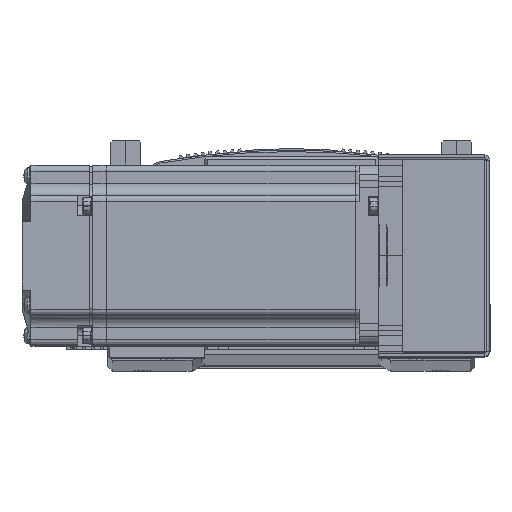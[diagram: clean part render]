
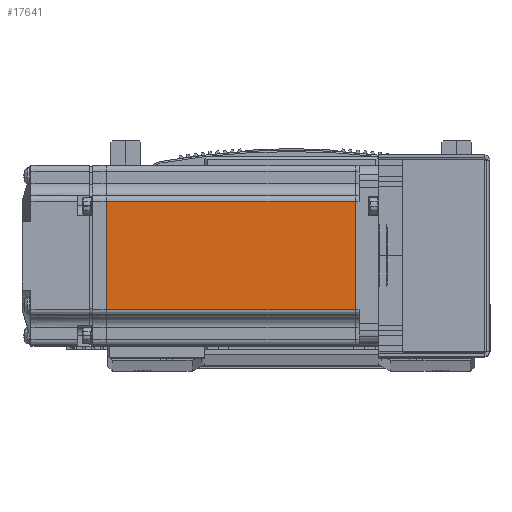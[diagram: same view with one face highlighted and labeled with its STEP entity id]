
A CAD part, top view. The second image highlights one B-rep face of the part: STEP entity #17641.
In plain terms, the highlighted planar face has unit normal (0, 0, 1) as drawn and (0, 1, 0) by its records, which use the part's own axes.
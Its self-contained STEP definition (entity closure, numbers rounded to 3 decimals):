
#3364 = EDGE_LOOP ( 'NONE', ( #52441, #52424, #52365, #52399 ) ) ;
#13656 = VERTEX_POINT ( 'NONE', #79274 ) ;
#13681 = VERTEX_POINT ( 'NONE', #79201 ) ;
#13769 = VERTEX_POINT ( 'NONE', #79341 ) ;
#13797 = VERTEX_POINT ( 'NONE', #79301 ) ;
#17641 = ADVANCED_FACE ( 'NONE', ( #37415 ), #70950, .T. ) ;
#24903 = LINE ( 'NONE', #50649, #25018 ) ;
#24994 = VECTOR ( 'NONE', #50655, 1000. ) ;
#24998 = LINE ( 'NONE', #50654, #24994 ) ;
#25018 = VECTOR ( 'NONE', #50648, 1000. ) ;
#26621 = LINE ( 'NONE', #50546, #26644 ) ;
#26644 = VECTOR ( 'NONE', #50561, 1000. ) ;
#29447 = VECTOR ( 'NONE', #50500, 1000. ) ;
#29479 = LINE ( 'NONE', #50471, #29447 ) ;
#30217 = AXIS2_PLACEMENT_3D ( 'NONE', #70998, #71029, #70977 ) ;
#37415 = FACE_OUTER_BOUND ( 'NONE', #3364, .T. ) ;
#50471 = CARTESIAN_POINT ( 'NONE',  ( -6.5, 30., 18. ) ) ;
#50500 = DIRECTION ( 'NONE',  ( 1., 0., 0. ) ) ;
#50546 = CARTESIAN_POINT ( 'NONE',  ( -6.5, 30., -18. ) ) ;
#50561 = DIRECTION ( 'NONE',  ( -1., 0., 0. ) ) ;
#50648 = DIRECTION ( 'NONE',  ( 0., 0., 1. ) ) ;
#50649 = CARTESIAN_POINT ( 'NONE',  ( -7.75, 30., 0. ) ) ;
#50654 = CARTESIAN_POINT ( 'NONE',  ( -90.45, 30., 0. ) ) ;
#50655 = DIRECTION ( 'NONE',  ( 0., 0., 1. ) ) ;
#52365 = ORIENTED_EDGE ( 'NONE', *, *, #54819, .T. ) ;
#52399 = ORIENTED_EDGE ( 'NONE', *, *, #54676, .T. ) ;
#52424 = ORIENTED_EDGE ( 'NONE', *, *, #54767, .T. ) ;
#52441 = ORIENTED_EDGE ( 'NONE', *, *, #54822, .F. ) ;
#54676 = EDGE_CURVE ( 'NONE', #13797, #13769, #29479, .T. ) ;
#54767 = EDGE_CURVE ( 'NONE', #13656, #13681, #26621, .T. ) ;
#54819 = EDGE_CURVE ( 'NONE', #13681, #13797, #24998, .T. ) ;
#54822 = EDGE_CURVE ( 'NONE', #13656, #13769, #24903, .T. ) ;
#70950 = PLANE ( 'NONE',  #30217 ) ;
#70977 = DIRECTION ( 'NONE',  ( 0., 0., 1. ) ) ;
#70998 = CARTESIAN_POINT ( 'NONE',  ( -6.5, 30., 25. ) ) ;
#71029 = DIRECTION ( 'NONE',  ( 0., 1., 0. ) ) ;
#79201 = CARTESIAN_POINT ( 'NONE',  ( -90.45, 30., -18. ) ) ;
#79274 = CARTESIAN_POINT ( 'NONE',  ( -7.75, 30., -18. ) ) ;
#79301 = CARTESIAN_POINT ( 'NONE',  ( -90.45, 30., 18. ) ) ;
#79341 = CARTESIAN_POINT ( 'NONE',  ( -7.75, 30., 18. ) ) ;
